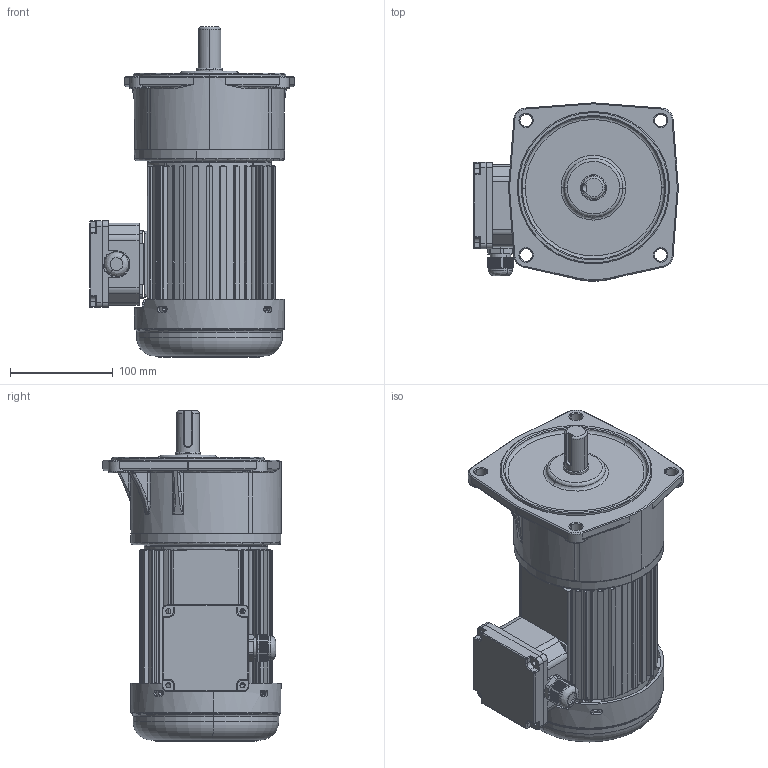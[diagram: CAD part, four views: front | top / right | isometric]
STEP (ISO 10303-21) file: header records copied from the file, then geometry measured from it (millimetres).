
FILE_DESCRIPTION (( 'STEP AP203' ), '1' );
FILE_NAME ('400W配2#立式.STEP', '2019-06-14T07:20:16', ( '微软中国' ), ( '微软用户' ), 'SwSTEP 2.0', 'SolidWorks 2012', '' );
FILE_SCHEMA (( 'CONFIG_CONTROL_DESIGN' ));
Products named in the file (10): 400W饜2#蕾宒; 400W瑞欶; 2#蕾宒熬厒ん; 2xg400w; 釱菜; 綴傷裔 2_2; 坶踡ん 蚾饜; 蜊輛綴諉盄碟裔; 呿蹋諉盄碟; 儂褲 2_2
Assembly tree (9 placements, depth 2):
  400W饜2#蕾宒
    儂褲 2_2
    呿蹋諉盄碟
    蜊輛綴諉盄碟裔
    坶踡ん 蚾饜
    綴傷裔 2_2
    釱菜
    2xg400w
    2#蕾宒熬厒ん
    400W瑞欶
Bounding box: 198.83 x 172.99 x 320.69 mm (x, y, z)
Volume: 2007132.4 mm3; surface area: 506683.1 mm2
Topology: 8 solids, 10 shells, 2713 faces, 7072 edges, 4433 vertices
Faces by surface type: cylinder 1048, plane 738, bspline 474, torus 248, cone 152, sphere 53
Entity records: 111040 total; most frequent: CARTESIAN_POINT 46105, ORIENTED_EDGE 14010, DIRECTION 12657, EDGE_CURVE 7007, AXIS2_PLACEMENT_3D 4937, VERTEX_POINT 4423, EDGE_LOOP 3104, LINE 2783
